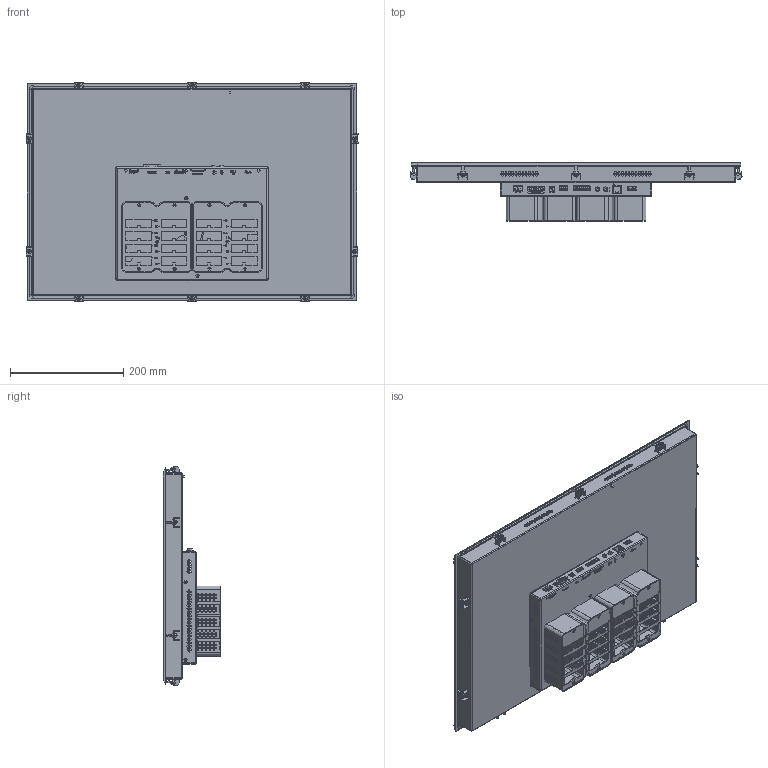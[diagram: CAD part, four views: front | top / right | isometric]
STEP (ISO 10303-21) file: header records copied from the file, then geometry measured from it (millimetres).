
FILE_DESCRIPTION (( 'STEP AP214' ), '1' );
FILE_NAME ('ﾏﾋﾊ24-02 ﾌ瑕褪.STEP', '2025-05-24T22:37:14', ( '' ), ( '' ), 'SwSTEP 2.0', 'SolidWorks 2021', '' );
FILE_SCHEMA (( 'AUTOMOTIVE_DESIGN' ));
Length unit declared in the file: millimetre
Products named in the file (1): ﾏﾋﾊ24-02 ﾌ瑕褪
Bounding box: 587.04 x 102.3 x 388.14 mm (x, y, z)
Topology: 0 solids, 227 shells, 3078 faces, 17467 edges, 14410 vertices
Faces by surface type: cylinder 1757, plane 1174, cone 80, torus 44, bspline 23
Full cylindrical faces by diameter (mm): 2.4 x1, 3 x1
Entity records: 217697 total; most frequent: CARTESIAN_POINT 51169, DIRECTION 26060, ORIENTED_EDGE 23893, EDGE_CURVE 17470, VERTEX_POINT 14413, LINE 8692, VECTOR 8692, AXIS2_PLACEMENT_3D 8684
